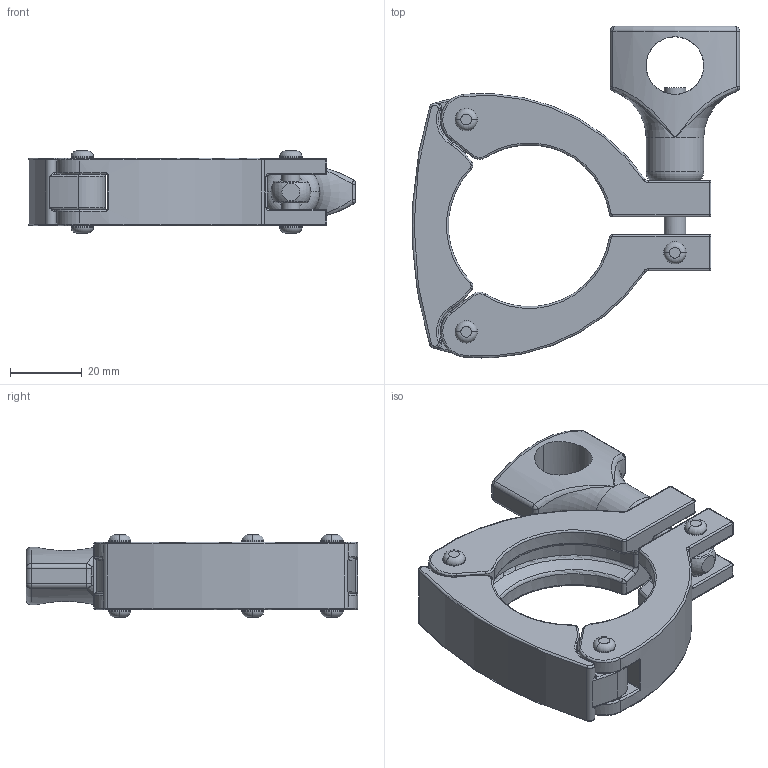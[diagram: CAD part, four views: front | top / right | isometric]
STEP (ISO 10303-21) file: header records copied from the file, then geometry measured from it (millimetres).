
FILE_DESCRIPTION (( 'STEP AP203' ), '1' );
FILE_NAME ('13MHHS1.5.STEP', '2022-06-08T03:16:24', ( 'user' ), ( '' ), 'SwSTEP 2.0', 'SolidWorks 2014', '' );
FILE_SCHEMA (( 'CONFIG_CONTROL_DESIGN' ));
Length unit declared in the file: millimetre
Products named in the file (7): 13MHHS1.5; Wing Nut 14; 13MHHS-PART-4; 13MHHS1.5-1; 13MHHS1.5-3; 13MHHS-PARTS-6; 13MHHS1.5-2
Assembly tree (8 placements, depth 2):
  13MHHS1.5
    13MHHS1.5-1
    13MHHS1.5-2
    13MHHS1.5-3
    13MHHS-PART-4
    13MHHS-PARTS-6  x3
    Wing Nut 14
Bounding box: 90.97 x 92.24 x 22.8 mm (x, y, z)
Volume: 53090.4 mm3; surface area: 24208.6 mm2
Topology: 8 solids, 8 shells, 582 faces, 1340 edges, 727 vertices
Faces by surface type: torus 212, cylinder 181, bspline 88, plane 60, sphere 34, cone 7
Entity records: 18644 total; most frequent: CARTESIAN_POINT 5932, DIRECTION 2731, ORIENTED_EDGE 2436, AXIS2_PLACEMENT_3D 1236, EDGE_CURVE 1218, CIRCLE 767, VERTEX_POINT 685, EDGE_LOOP 569
